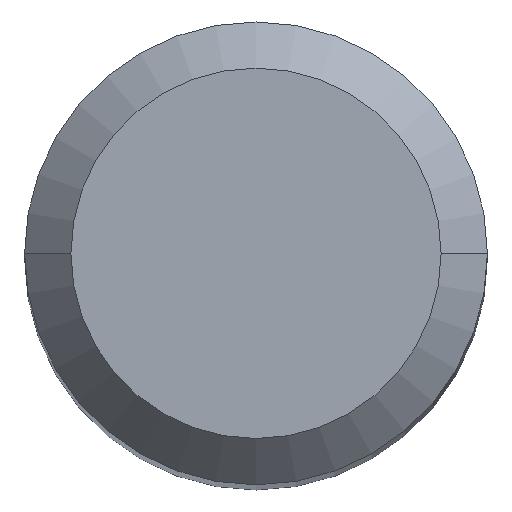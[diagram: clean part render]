
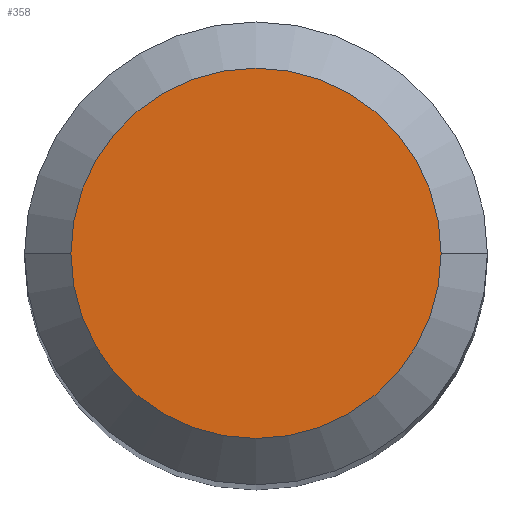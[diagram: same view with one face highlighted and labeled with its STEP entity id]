
A CAD part, top view. The second image highlights one B-rep face of the part: STEP entity #358.
In plain terms, the highlighted planar face has unit normal (0, 0, 1).
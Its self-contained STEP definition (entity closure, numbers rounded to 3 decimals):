
#1 = DIRECTION ( 'NONE',  ( 0., 0., -1. ) ) ;
#23 = DIRECTION ( 'NONE',  ( 1., 0., 0. ) ) ;
#39 = CARTESIAN_POINT ( 'NONE',  ( 2.4, 0., 0. ) ) ;
#70 = EDGE_CURVE ( 'NONE', #570, #83, #104, .T. ) ;
#83 = VERTEX_POINT ( 'NONE', #514 ) ;
#89 = ORIENTED_EDGE ( 'NONE', *, *, #70, .F. ) ;
#104 = CIRCLE ( 'NONE', #471, 2.4 ) ;
#121 = AXIS2_PLACEMENT_3D ( 'NONE', #231, #228, #23 ) ;
#162 = DIRECTION ( 'NONE',  ( -1., 0., 0. ) ) ;
#166 = EDGE_LOOP ( 'NONE', ( #508, #89 ) ) ;
#208 = EDGE_CURVE ( 'NONE', #83, #570, #449, .T. ) ;
#209 = CARTESIAN_POINT ( 'NONE',  ( 0., 0., 0. ) ) ;
#228 = DIRECTION ( 'NONE',  ( 0., 0., 1. ) ) ;
#231 = CARTESIAN_POINT ( 'NONE',  ( 0., 2.4, 0. ) ) ;
#240 = PLANE ( 'NONE',  #121 ) ;
#253 = AXIS2_PLACEMENT_3D ( 'NONE', #209, #1, #162 ) ;
#272 = DIRECTION ( 'NONE',  ( -1., 0., 0. ) ) ;
#358 = ADVANCED_FACE ( 'NONE', ( #547 ), #240, .T. ) ;
#449 = CIRCLE ( 'NONE', #253, 2.4 ) ;
#471 = AXIS2_PLACEMENT_3D ( 'NONE', #497, #556, #272 ) ;
#497 = CARTESIAN_POINT ( 'NONE',  ( 0., 0., 0. ) ) ;
#508 = ORIENTED_EDGE ( 'NONE', *, *, #208, .F. ) ;
#514 = CARTESIAN_POINT ( 'NONE',  ( -2.4, 0., 0. ) ) ;
#547 = FACE_OUTER_BOUND ( 'NONE', #166, .T. ) ;
#556 = DIRECTION ( 'NONE',  ( 0., 0., -1. ) ) ;
#570 = VERTEX_POINT ( 'NONE', #39 ) ;
